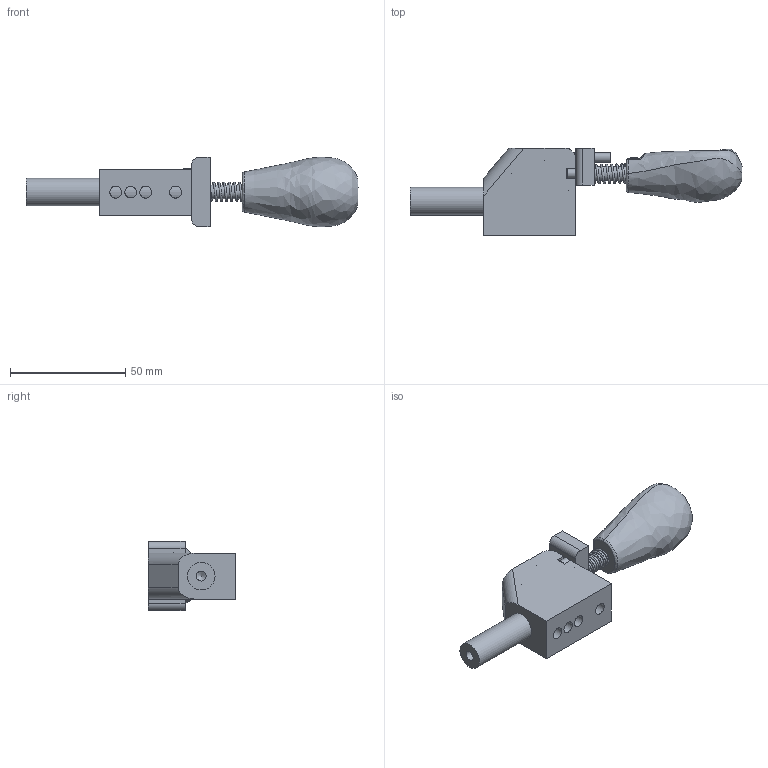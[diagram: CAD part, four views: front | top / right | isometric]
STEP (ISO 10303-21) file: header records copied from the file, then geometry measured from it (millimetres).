
FILE_DESCRIPTION(/* description */ (''),/* implementation_level */ '2;1');
FILE_NAME(/* name */ '\\192.168.1.150\pc03\Inventor\デュアルメカニズムクランプ最終\2017.10月　最新型\YSP-22ST-L\YSP-22ST-L-CLAMP.stp',/* time_stamp */ '2024-05-14T16:44:09+09:00',/* author */ ('Backup'),/* organization */ (''),/* preprocessor_version */ 'ST-DEVELOPER v17',/* originating_system */ 'Autodesk Inventor 2019',/* authorisation */ '');
FILE_SCHEMA (('AUTOMOTIVE_DESIGN { 1 0 10303 214 3 1 1 }'));
Length unit declared in the file: millimetre
Products named in the file (10): Assembly10; ボディ 改修後; 50-30_VER4_PG2__12; Φ8×40ｼｬﾌﾄ; カムφ25; YO－M３５S スライドバー; φ4×25; ロック機構; φ4×25_1; スプリング
Assembly tree (10 placements, depth 2):
  Assembly10
    ボディ 改修後
    50-30_VER4_PG2__12
    Φ8×40ｼｬﾌﾄ
    カムφ25
    YO－M３５S スライドバー
    φ4×25  x2
    ロック機構
    φ4×25_1
    スプリング
Bounding box: 144.25 x 38 x 30.18 mm (x, y, z)
Volume: 51353.7 mm3; surface area: 22407.4 mm2
Topology: 10 solids, 10 shells, 233 faces, 644 edges, 431 vertices
Faces by surface type: plane 113, cylinder 85, bspline 25, cone 6, sphere 4
Full cylindrical faces by diameter (mm): 0.01 x12, 1.306 x1, 3 x2, 3.2 x7, 4 x5, 4.1 x1, 4.3 x1, 5.1 x1, 5.2 x3, 6 x3, 6.1 x1, 12 x2
Entity records: 19142 total; most frequent: CARTESIAN_POINT 12882, ORIENTED_EDGE 1268, DIRECTION 1181, EDGE_CURVE 634, VERTEX_POINT 428, AXIS2_PLACEMENT_3D 426, LINE 329, VECTOR 329
